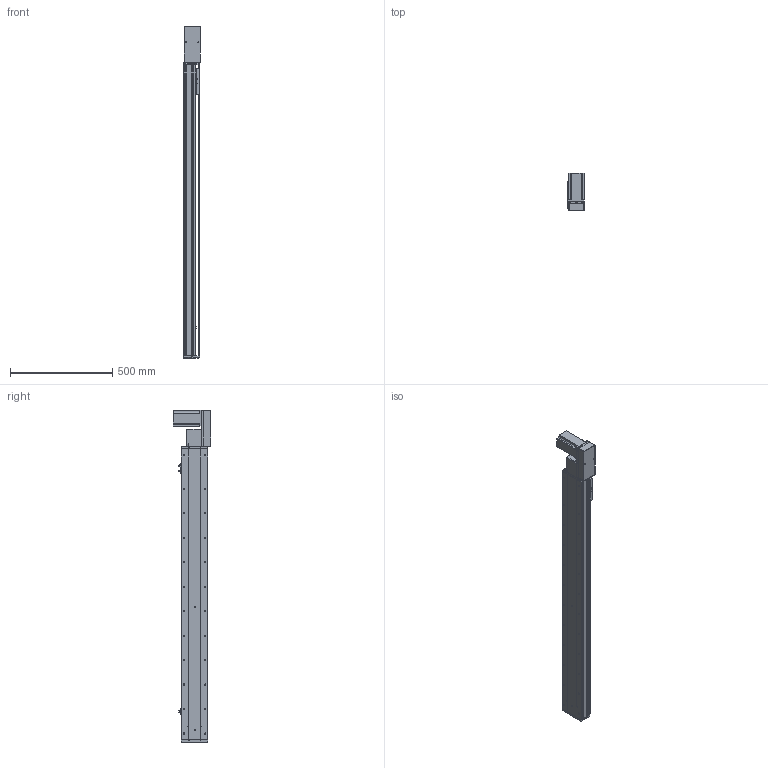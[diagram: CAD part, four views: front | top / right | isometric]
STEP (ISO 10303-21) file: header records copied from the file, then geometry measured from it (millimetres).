
FILE_DESCRIPTION (( 'STEP AP214' ), '1' );
FILE_NAME ('KSD130B-S1200-MLB-CM.STEP', '2019-09-19T07:44:06', ( '微软用户' ), ( '微软中国' ), 'SwSTEP 2.0', 'SolidWorks 2014', '' );
FILE_SCHEMA (( 'AUTOMOTIVE_DESIGN' ));
Length unit declared in the file: millimetre
Products named in the file (12): 130宽模组马达安装板连板左右折同步带; 覜茼え100遵圉猾敕; U倰嫖萇EEㄜSX672; 130宽盖板半封闭同步带-1200行程; 130宽马达安装板同步带左-改; 130宽马达安装板同步带半封闭; 130宽同步带安装座半封闭; 130宽端盖同步带半封闭; 130宽底板半封闭同步带-1200行程; KSD130B-S1200-MLB-CM; 台达ECMA－C20807AS伺服电机; 130宽模组保护罩上下左右折-同步带
Assembly tree (13 placements, depth 2):
  KSD130B-S1200-MLB-CM
    130宽底板半封闭同步带-1200行程
    130宽端盖同步带半封闭
    130宽同步带安装座半封闭
    130宽马达安装板同步带半封闭
    130宽马达安装板同步带左-改
    130宽盖板半封闭同步带-1200行程
    U倰嫖萇EEㄜSX672  x3
    覜茼え100遵圉猾敕
    130宽模组马达安装板连板左右折同步带
    130宽模组保护罩上下左右折-同步带
    台达ECMA－C20807AS伺服电机
Bounding box: 82.5 x 184.8 x 1627 mm (x, y, z)
Volume: 5528768.6 mm3; surface area: 1527065.2 mm2
Topology: 14 solids, 14 shells, 1577 faces, 4521 edges, 2881 vertices
Faces by surface type: cylinder 760, plane 630, cone 187
Entity records: 52299 total; most frequent: CARTESIAN_POINT 9798, DIRECTION 7939, ORIENTED_EDGE 7654, EDGE_CURVE 3827, AXIS2_PLACEMENT_3D 2902, VERTEX_POINT 2505, VECTOR 2135, LINE 2135
